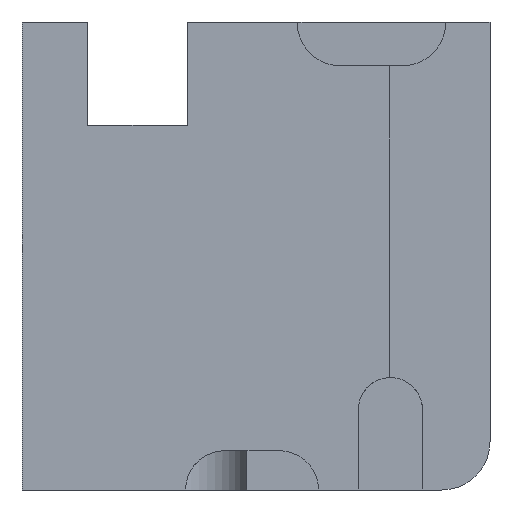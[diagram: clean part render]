
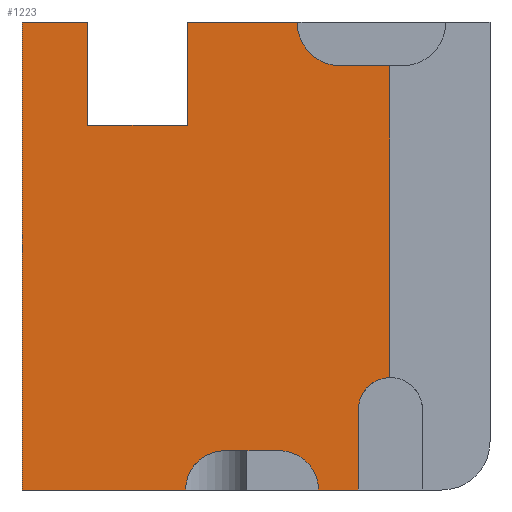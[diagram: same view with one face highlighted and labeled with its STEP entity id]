
A CAD part, front view. The second image highlights one B-rep face of the part: STEP entity #1223.
In plain terms, the highlighted planar face has unit normal (0, -1, 0).
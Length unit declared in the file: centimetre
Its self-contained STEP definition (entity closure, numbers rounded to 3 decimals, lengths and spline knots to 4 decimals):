
#2 = DIRECTION ( 'NONE',  ( 0., -1., 0. ) ) ;
#7 = EDGE_CURVE ( 'NONE', #102, #1376, #831, .T. ) ;
#9 = CARTESIAN_POINT ( 'NONE',  ( 587.5475, 0., 1000. ) ) ;
#22 = CARTESIAN_POINT ( 'NONE',  ( 433.4306, 0., 0. ) ) ;
#23 = LINE ( 'NONE', #734, #450 ) ;
#30 = DIRECTION ( 'NONE',  ( 0., 0., -1. ) ) ;
#41 = CARTESIAN_POINT ( 'NONE',  ( 681.1803, 0., 906.3673 ) ) ;
#44 = VERTEX_POINT ( 'NONE', #865 ) ;
#57 = ORIENTED_EDGE ( 'NONE', *, *, #999, .F. ) ;
#85 = FACE_OUTER_BOUND ( 'NONE', #825, .T. ) ;
#92 = DIRECTION ( 'NONE',  ( 0., 1., 0. ) ) ;
#102 = VERTEX_POINT ( 'NONE', #760 ) ;
#107 = VERTEX_POINT ( 'NONE', #1416 ) ;
#188 = VERTEX_POINT ( 'NONE', #960 ) ;
#204 = CARTESIAN_POINT ( 'NONE',  ( 787.169, 0., 171.6949 ) ) ;
#227 = DIRECTION ( 'NONE',  ( 0., 0., -1. ) ) ;
#230 = LINE ( 'NONE', #919, #1309 ) ;
#235 = DIRECTION ( 'NONE',  ( 0., 0., -1. ) ) ;
#244 = CARTESIAN_POINT ( 'NONE',  ( 0., 0., 1000. ) ) ;
#253 = VERTEX_POINT ( 'NONE', #889 ) ;
#267 = DIRECTION ( 'NONE',  ( 1., 0., 0. ) ) ;
#275 = CARTESIAN_POINT ( 'NONE',  ( 681.1803, 0., 1000. ) ) ;
#285 = LINE ( 'NONE', #1191, #292 ) ;
#292 = VECTOR ( 'NONE', #951, 100. ) ;
#295 = ORIENTED_EDGE ( 'NONE', *, *, #920, .F. ) ;
#304 = CIRCLE ( 'NONE', #493, 68.5134 ) ;
#309 = LINE ( 'NONE', #618, #463 ) ;
#315 = CIRCLE ( 'NONE', #1137, 84.02 ) ;
#316 = DIRECTION ( 'NONE',  ( 0., -1., 0. ) ) ;
#321 = CARTESIAN_POINT ( 'NONE',  ( 785.5268, 0., 240.1885 ) ) ;
#323 = CIRCLE ( 'NONE', #911, 84.02 ) ;
#325 = CARTESIAN_POINT ( 'NONE',  ( 0., 0., 0. ) ) ;
#345 = DIRECTION ( 'NONE',  ( 0., 0., 1. ) ) ;
#372 = VERTEX_POINT ( 'NONE', #9 ) ;
#395 = VERTEX_POINT ( 'NONE', #568 ) ;
#440 = VECTOR ( 'NONE', #30, 100. ) ;
#450 = VECTOR ( 'NONE', #1417, 100. ) ;
#456 = EDGE_CURVE ( 'NONE', #188, #107, #1051, .T. ) ;
#463 = VECTOR ( 'NONE', #519, 100. ) ;
#466 = DIRECTION ( 'NONE',  ( 1., 0., 0. ) ) ;
#479 = EDGE_CURVE ( 'NONE', #1376, #1186, #1287, .T. ) ;
#489 = EDGE_CURVE ( 'NONE', #814, #1069, #1381, .T. ) ;
#490 = DIRECTION ( 'NONE',  ( 0., 0., -1. ) ) ;
#492 = ORIENTED_EDGE ( 'NONE', *, *, #479, .F. ) ;
#493 = AXIS2_PLACEMENT_3D ( 'NONE', #204, #316, #771 ) ;
#519 = DIRECTION ( 'NONE',  ( -1., 0., 0. ) ) ;
#538 = VECTOR ( 'NONE', #345, 100. ) ;
#554 = EDGE_CURVE ( 'NONE', #743, #1163, #23, .T. ) ;
#568 = CARTESIAN_POINT ( 'NONE',  ( 633.5871, 0., 0. ) ) ;
#617 = ORIENTED_EDGE ( 'NONE', *, *, #489, .F. ) ;
#618 = CARTESIAN_POINT ( 'NONE',  ( 549.5671, 0., 84.02 ) ) ;
#627 = EDGE_CURVE ( 'NONE', #372, #102, #1339, .T. ) ;
#645 = AXIS2_PLACEMENT_3D ( 'NONE', #275, #811, #1399 ) ;
#647 = DIRECTION ( 'NONE',  ( 0., 0., 1. ) ) ;
#649 = EDGE_CURVE ( 'NONE', #188, #743, #285, .T. ) ;
#661 = ORIENTED_EDGE ( 'NONE', *, *, #456, .F. ) ;
#663 = CARTESIAN_POINT ( 'NONE',  ( 353.7271, 0., 1000. ) ) ;
#674 = AXIS2_PLACEMENT_3D ( 'NONE', #1117, #92, #647 ) ;
#703 = VERTEX_POINT ( 'NONE', #1410 ) ;
#707 = CARTESIAN_POINT ( 'NONE',  ( 785.5268, 0., 1000. ) ) ;
#716 = DIRECTION ( 'NONE',  ( 0., 0., -1. ) ) ;
#721 = ORIENTED_EDGE ( 'NONE', *, *, #649, .T. ) ;
#733 = EDGE_CURVE ( 'NONE', #44, #703, #1214, .T. ) ;
#734 = CARTESIAN_POINT ( 'NONE',  ( 0., 0., 0. ) ) ;
#743 = VERTEX_POINT ( 'NONE', #871 ) ;
#745 = CARTESIAN_POINT ( 'NONE',  ( 433.4306, 0., 84.02 ) ) ;
#747 = DIRECTION ( 'NONE',  ( -1., 0., 0. ) ) ;
#760 = CARTESIAN_POINT ( 'NONE',  ( 681.1803, 0., 906.3673 ) ) ;
#761 = CARTESIAN_POINT ( 'NONE',  ( 140.0726, 0., 779.5833 ) ) ;
#766 = CARTESIAN_POINT ( 'NONE',  ( 349.4106, 0., 0. ) ) ;
#771 = DIRECTION ( 'NONE',  ( 0., 0., 1. ) ) ;
#772 = VECTOR ( 'NONE', #466, 100. ) ;
#776 = VECTOR ( 'NONE', #747, 100. ) ;
#783 = CARTESIAN_POINT ( 'NONE',  ( 549.5671, 0., 0. ) ) ;
#793 = CARTESIAN_POINT ( 'NONE',  ( 785.5268, 0., 906.3673 ) ) ;
#796 = EDGE_CURVE ( 'NONE', #395, #253, #315, .T. ) ;
#811 = DIRECTION ( 'NONE',  ( 0., -1., 0. ) ) ;
#814 = VERTEX_POINT ( 'NONE', #904 ) ;
#817 = LINE ( 'NONE', #1043, #440 ) ;
#825 = EDGE_LOOP ( 'NONE', ( #1061, #617, #917, #492, #1199, #1293, #1313, #1418, #1403, #872, #661, #721, #966, #295, #57, #1159 ) ) ;
#831 = LINE ( 'NONE', #41, #772 ) ;
#865 = CARTESIAN_POINT ( 'NONE',  ( 353.7271, 0., 779.5833 ) ) ;
#871 = CARTESIAN_POINT ( 'NONE',  ( 0., 0., 0. ) ) ;
#872 = ORIENTED_EDGE ( 'NONE', *, *, #1334, .T. ) ;
#878 = EDGE_CURVE ( 'NONE', #395, #1069, #1346, .T. ) ;
#889 = CARTESIAN_POINT ( 'NONE',  ( 549.5671, 0., 84.02 ) ) ;
#904 = CARTESIAN_POINT ( 'NONE',  ( 718.6556, 0., 171.6949 ) ) ;
#905 = LINE ( 'NONE', #1366, #538 ) ;
#908 = EDGE_CURVE ( 'NONE', #1195, #44, #817, .T. ) ;
#911 = AXIS2_PLACEMENT_3D ( 'NONE', #22, #1277, #490 ) ;
#917 = ORIENTED_EDGE ( 'NONE', *, *, #1146, .F. ) ;
#919 = CARTESIAN_POINT ( 'NONE',  ( 0., 0., 1000. ) ) ;
#920 = EDGE_CURVE ( 'NONE', #1019, #1163, #323, .T. ) ;
#936 = DIRECTION ( 'NONE',  ( 1., 0., 0. ) ) ;
#942 = VECTOR ( 'NONE', #1229, 100. ) ;
#951 = DIRECTION ( 'NONE',  ( 0., 0., -1. ) ) ;
#954 = VECTOR ( 'NONE', #235, 100. ) ;
#960 = CARTESIAN_POINT ( 'NONE',  ( 0., 0., 1000. ) ) ;
#966 = ORIENTED_EDGE ( 'NONE', *, *, #554, .T. ) ;
#995 = VECTOR ( 'NONE', #267, 100. ) ;
#999 = EDGE_CURVE ( 'NONE', #253, #1019, #309, .T. ) ;
#1019 = VERTEX_POINT ( 'NONE', #745 ) ;
#1043 = CARTESIAN_POINT ( 'NONE',  ( 353.7271, 0., 779.5833 ) ) ;
#1051 = LINE ( 'NONE', #244, #995 ) ;
#1061 = ORIENTED_EDGE ( 'NONE', *, *, #878, .T. ) ;
#1069 = VERTEX_POINT ( 'NONE', #1440 ) ;
#1117 = CARTESIAN_POINT ( 'NONE',  ( 0., 0., 1000. ) ) ;
#1134 = VECTOR ( 'NONE', #716, 100. ) ;
#1137 = AXIS2_PLACEMENT_3D ( 'NONE', #783, #2, #227 ) ;
#1144 = CARTESIAN_POINT ( 'NONE',  ( 718.6556, 0., 0. ) ) ;
#1146 = EDGE_CURVE ( 'NONE', #1186, #814, #304, .T. ) ;
#1159 = ORIENTED_EDGE ( 'NONE', *, *, #796, .F. ) ;
#1163 = VERTEX_POINT ( 'NONE', #766 ) ;
#1186 = VERTEX_POINT ( 'NONE', #321 ) ;
#1191 = CARTESIAN_POINT ( 'NONE',  ( 0., 0., 1000. ) ) ;
#1195 = VERTEX_POINT ( 'NONE', #663 ) ;
#1199 = ORIENTED_EDGE ( 'NONE', *, *, #7, .F. ) ;
#1214 = LINE ( 'NONE', #761, #776 ) ;
#1223 = ADVANCED_FACE ( 'NONE', ( #85 ), #1347, .F. ) ;
#1229 = DIRECTION ( 'NONE',  ( 1., 0., 0. ) ) ;
#1277 = DIRECTION ( 'NONE',  ( 0., -1., 0. ) ) ;
#1287 = LINE ( 'NONE', #707, #1134 ) ;
#1293 = ORIENTED_EDGE ( 'NONE', *, *, #627, .F. ) ;
#1309 = VECTOR ( 'NONE', #936, 100. ) ;
#1313 = ORIENTED_EDGE ( 'NONE', *, *, #1458, .F. ) ;
#1334 = EDGE_CURVE ( 'NONE', #703, #107, #905, .T. ) ;
#1339 = CIRCLE ( 'NONE', #645, 93.6327 ) ;
#1346 = LINE ( 'NONE', #325, #942 ) ;
#1347 = PLANE ( 'NONE',  #674 ) ;
#1366 = CARTESIAN_POINT ( 'NONE',  ( 140.0726, 0., 779.5833 ) ) ;
#1376 = VERTEX_POINT ( 'NONE', #793 ) ;
#1381 = LINE ( 'NONE', #1144, #954 ) ;
#1399 = DIRECTION ( 'NONE',  ( 0., 0., -1. ) ) ;
#1403 = ORIENTED_EDGE ( 'NONE', *, *, #733, .T. ) ;
#1410 = CARTESIAN_POINT ( 'NONE',  ( 140.0726, 0., 779.5833 ) ) ;
#1416 = CARTESIAN_POINT ( 'NONE',  ( 140.0726, 0., 1000. ) ) ;
#1417 = DIRECTION ( 'NONE',  ( 1., 0., 0. ) ) ;
#1418 = ORIENTED_EDGE ( 'NONE', *, *, #908, .T. ) ;
#1440 = CARTESIAN_POINT ( 'NONE',  ( 718.6556, 0., 0. ) ) ;
#1458 = EDGE_CURVE ( 'NONE', #1195, #372, #230, .T. ) ;
